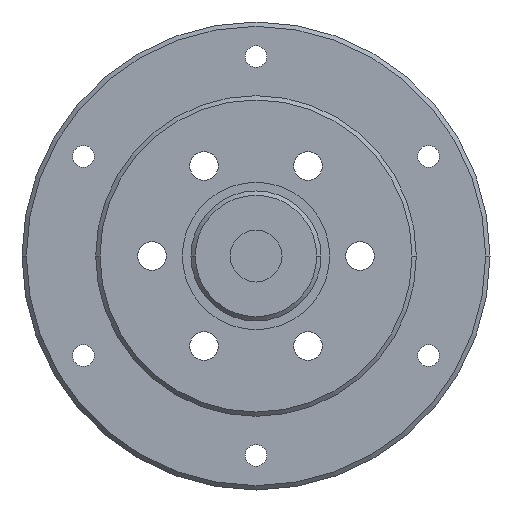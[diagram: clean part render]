
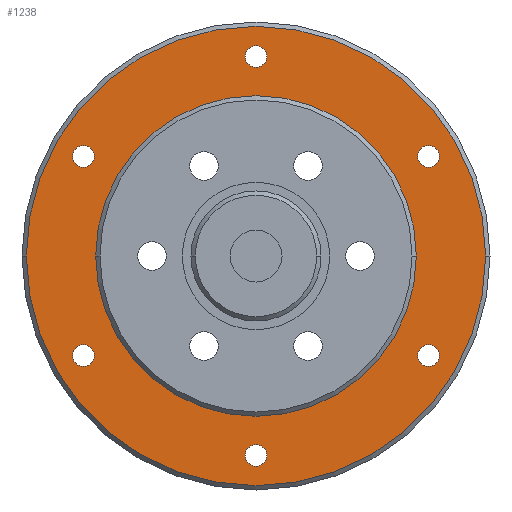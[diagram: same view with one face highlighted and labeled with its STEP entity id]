
A CAD part, front view. The second image highlights one B-rep face of the part: STEP entity #1238.
In plain terms, the highlighted planar face has unit normal (0, -1, 0).
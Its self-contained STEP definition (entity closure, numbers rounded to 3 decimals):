
#363=CARTESIAN_POINT('',(0.,30.5,0.));
#364=DIRECTION('',(0.,-1.,0.));
#365=DIRECTION('',(1.,0.,0.));
#366=AXIS2_PLACEMENT_3D('',#363,#364,#365);
#368=CARTESIAN_POINT('',(0.,30.5,0.));
#369=DIRECTION('',(0.,1.,0.));
#370=DIRECTION('',(1.,0.,0.));
#371=AXIS2_PLACEMENT_3D('',#368,#369,#370);
#373=CARTESIAN_POINT('',(0.,30.5,-23.));
#374=DIRECTION('',(0.,1.,0.));
#375=DIRECTION('',(-1.,0.,0.));
#376=AXIS2_PLACEMENT_3D('',#373,#374,#375);
#378=CARTESIAN_POINT('',(0.,30.5,-23.));
#379=DIRECTION('',(0.,1.,0.));
#380=DIRECTION('',(1.,0.,0.));
#381=AXIS2_PLACEMENT_3D('',#378,#379,#380);
#383=CARTESIAN_POINT('',(19.919,30.5,-11.5));
#384=DIRECTION('',(0.,1.,0.));
#385=DIRECTION('',(0.5,0.,0.866));
#386=AXIS2_PLACEMENT_3D('',#383,#384,#385);
#388=CARTESIAN_POINT('',(19.919,30.5,-11.5));
#389=DIRECTION('',(0.,1.,0.));
#390=DIRECTION('',(-0.5,0.,-0.866));
#391=AXIS2_PLACEMENT_3D('',#388,#389,#390);
#393=CARTESIAN_POINT('',(19.919,30.5,11.5));
#394=DIRECTION('',(0.,1.,0.));
#395=DIRECTION('',(-0.5,0.,0.866));
#396=AXIS2_PLACEMENT_3D('',#393,#394,#395);
#398=CARTESIAN_POINT('',(19.919,30.5,11.5));
#399=DIRECTION('',(0.,1.,0.));
#400=DIRECTION('',(0.5,0.,-0.866));
#401=AXIS2_PLACEMENT_3D('',#398,#399,#400);
#403=CARTESIAN_POINT('',(0.,30.5,23.));
#404=DIRECTION('',(0.,1.,0.));
#405=DIRECTION('',(-1.,0.,0.));
#406=AXIS2_PLACEMENT_3D('',#403,#404,#405);
#408=CARTESIAN_POINT('',(0.,30.5,23.));
#409=DIRECTION('',(0.,1.,0.));
#410=DIRECTION('',(1.,0.,0.));
#411=AXIS2_PLACEMENT_3D('',#408,#409,#410);
#413=CARTESIAN_POINT('',(-19.919,30.5,11.5));
#414=DIRECTION('',(0.,1.,0.));
#415=DIRECTION('',(-0.5,0.,-0.866));
#416=AXIS2_PLACEMENT_3D('',#413,#414,#415);
#418=CARTESIAN_POINT('',(-19.919,30.5,11.5));
#419=DIRECTION('',(0.,1.,0.));
#420=DIRECTION('',(0.5,0.,0.866));
#421=AXIS2_PLACEMENT_3D('',#418,#419,#420);
#423=CARTESIAN_POINT('',(-19.919,30.5,-11.5));
#424=DIRECTION('',(0.,1.,0.));
#425=DIRECTION('',(0.5,0.,-0.866));
#426=AXIS2_PLACEMENT_3D('',#423,#424,#425);
#428=CARTESIAN_POINT('',(-19.919,30.5,-11.5));
#429=DIRECTION('',(0.,1.,0.));
#430=DIRECTION('',(-0.5,0.,0.866));
#431=AXIS2_PLACEMENT_3D('',#428,#429,#430);
#433=CARTESIAN_POINT('',(0.,30.5,0.));
#434=DIRECTION('',(0.,1.,0.));
#435=DIRECTION('',(1.,0.,0.));
#436=AXIS2_PLACEMENT_3D('',#433,#434,#435);
#438=CARTESIAN_POINT('',(0.,30.5,0.));
#439=DIRECTION('',(0.,1.,0.));
#440=DIRECTION('',(-1.,0.,0.));
#441=AXIS2_PLACEMENT_3D('',#438,#439,#440);
#645=CARTESIAN_POINT('',(18.5,30.5,0.));
#646=CARTESIAN_POINT('',(-18.5,30.5,0.));
#647=VERTEX_POINT('',#645);
#648=VERTEX_POINT('',#646);
#649=CARTESIAN_POINT('',(-1.25,30.5,-23.));
#650=CARTESIAN_POINT('',(1.25,30.5,-23.));
#651=VERTEX_POINT('',#649);
#652=VERTEX_POINT('',#650);
#657=CARTESIAN_POINT('',(20.544,30.5,-10.417));
#658=CARTESIAN_POINT('',(19.294,30.5,-12.583));
#659=VERTEX_POINT('',#657);
#660=VERTEX_POINT('',#658);
#665=CARTESIAN_POINT('',(19.294,30.5,12.583));
#666=CARTESIAN_POINT('',(20.544,30.5,10.417));
#667=VERTEX_POINT('',#665);
#668=VERTEX_POINT('',#666);
#673=CARTESIAN_POINT('',(-1.25,30.5,23.));
#674=CARTESIAN_POINT('',(1.25,30.5,23.));
#675=VERTEX_POINT('',#673);
#676=VERTEX_POINT('',#674);
#681=CARTESIAN_POINT('',(-20.544,30.5,10.417));
#682=CARTESIAN_POINT('',(-19.294,30.5,12.583));
#683=VERTEX_POINT('',#681);
#684=VERTEX_POINT('',#682);
#689=CARTESIAN_POINT('',(-19.294,30.5,-12.583));
#690=CARTESIAN_POINT('',(-20.544,30.5,-10.417));
#691=VERTEX_POINT('',#689);
#692=VERTEX_POINT('',#690);
#773=CARTESIAN_POINT('',(26.5,30.5,0.));
#774=CARTESIAN_POINT('',(-26.5,30.5,0.));
#775=VERTEX_POINT('',#773);
#776=VERTEX_POINT('',#774);
#1186=CARTESIAN_POINT('',(0.,30.5,0.));
#1187=DIRECTION('',(0.,-1.,0.));
#1188=DIRECTION('',(-1.,0.,0.));
#1189=AXIS2_PLACEMENT_3D('',#1186,#1187,#1188);
#1190=PLANE('',#1189);
#1192=ORIENTED_EDGE('',*,*,#1191,.T.);
#1194=ORIENTED_EDGE('',*,*,#1193,.T.);
#1195=EDGE_LOOP('',(#1192,#1194));
#1196=FACE_OUTER_BOUND('',#1195,.F.);
#1197=ORIENTED_EDGE('',*,*,#1176,.F.);
#1199=ORIENTED_EDGE('',*,*,#1198,.F.);
#1200=EDGE_LOOP('',(#1197,#1199));
#1201=FACE_BOUND('',#1200,.F.);
#1203=ORIENTED_EDGE('',*,*,#1202,.F.);
#1205=ORIENTED_EDGE('',*,*,#1204,.F.);
#1206=EDGE_LOOP('',(#1203,#1205));
#1207=FACE_BOUND('',#1206,.F.);
#1209=ORIENTED_EDGE('',*,*,#1208,.F.);
#1211=ORIENTED_EDGE('',*,*,#1210,.F.);
#1212=EDGE_LOOP('',(#1209,#1211));
#1213=FACE_BOUND('',#1212,.F.);
#1215=ORIENTED_EDGE('',*,*,#1214,.F.);
#1217=ORIENTED_EDGE('',*,*,#1216,.F.);
#1218=EDGE_LOOP('',(#1215,#1217));
#1219=FACE_BOUND('',#1218,.F.);
#1221=ORIENTED_EDGE('',*,*,#1220,.F.);
#1223=ORIENTED_EDGE('',*,*,#1222,.F.);
#1224=EDGE_LOOP('',(#1221,#1223));
#1225=FACE_BOUND('',#1224,.F.);
#1227=ORIENTED_EDGE('',*,*,#1226,.F.);
#1229=ORIENTED_EDGE('',*,*,#1228,.F.);
#1230=EDGE_LOOP('',(#1227,#1229));
#1231=FACE_BOUND('',#1230,.F.);
#1233=ORIENTED_EDGE('',*,*,#1232,.T.);
#1235=ORIENTED_EDGE('',*,*,#1234,.F.);
#1236=EDGE_LOOP('',(#1233,#1235));
#1237=FACE_BOUND('',#1236,.F.);
#1238=ADVANCED_FACE('',(#1196,#1201,#1207,#1213,#1219,#1225,#1231,#1237),#1190,
.T.);
#367=CIRCLE('',#366,18.5);
#372=CIRCLE('',#371,18.5);
#377=CIRCLE('',#376,1.25);
#382=CIRCLE('',#381,1.25);
#387=CIRCLE('',#386,1.25);
#392=CIRCLE('',#391,1.25);
#397=CIRCLE('',#396,1.25);
#402=CIRCLE('',#401,1.25);
#407=CIRCLE('',#406,1.25);
#412=CIRCLE('',#411,1.25);
#417=CIRCLE('',#416,1.25);
#422=CIRCLE('',#421,1.25);
#427=CIRCLE('',#426,1.25);
#432=CIRCLE('',#431,1.25);
#437=CIRCLE('',#436,26.5);
#442=CIRCLE('',#441,26.5);
#1176=EDGE_CURVE('',#651,#652,#377,.T.);
#1191=EDGE_CURVE('',#775,#776,#437,.T.);
#1193=EDGE_CURVE('',#776,#775,#442,.T.);
#1198=EDGE_CURVE('',#652,#651,#382,.T.);
#1202=EDGE_CURVE('',#659,#660,#387,.T.);
#1204=EDGE_CURVE('',#660,#659,#392,.T.);
#1208=EDGE_CURVE('',#667,#668,#397,.T.);
#1210=EDGE_CURVE('',#668,#667,#402,.T.);
#1214=EDGE_CURVE('',#675,#676,#407,.T.);
#1216=EDGE_CURVE('',#676,#675,#412,.T.);
#1220=EDGE_CURVE('',#683,#684,#417,.T.);
#1222=EDGE_CURVE('',#684,#683,#422,.T.);
#1226=EDGE_CURVE('',#691,#692,#427,.T.);
#1228=EDGE_CURVE('',#692,#691,#432,.T.);
#1232=EDGE_CURVE('',#647,#648,#367,.T.);
#1234=EDGE_CURVE('',#647,#648,#372,.T.);
